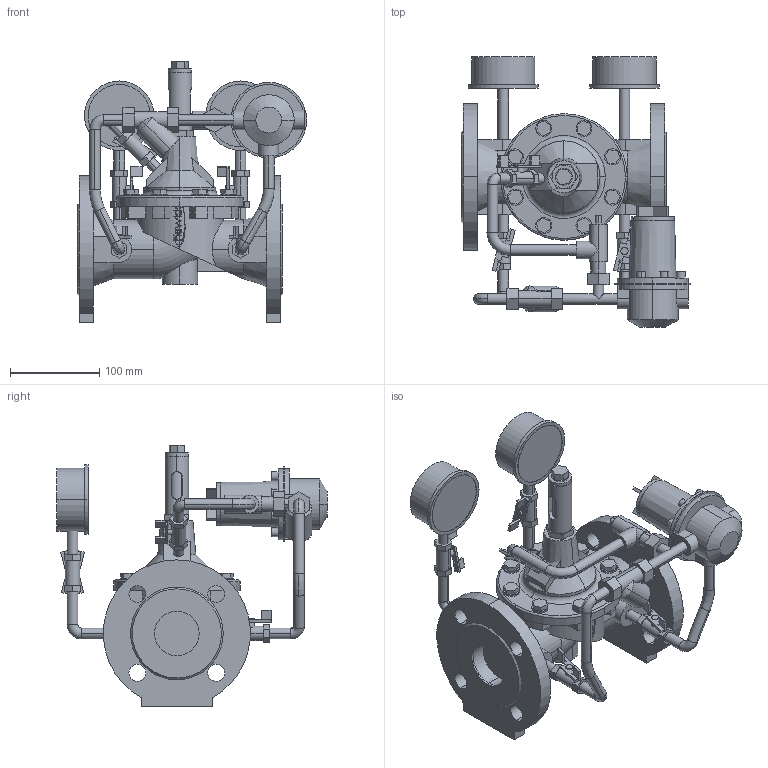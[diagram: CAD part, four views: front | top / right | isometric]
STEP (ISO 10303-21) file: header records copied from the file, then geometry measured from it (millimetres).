
FILE_DESCRIPTION(('STEP AP214'),'1');
FILE_NAME('S:/EK/USER/CAT6/3DHomepage_27-04-2012/CH-Produkte/1500/1500_PN16_DN50.STP','2013-01-18T08:36:37',(' '),(' '),'Spatial InterOp 3D',' ',' ');
FILE_SCHEMA(('automotive_design'));
Length unit declared in the file: millimetre
Products named in the file (177): 3D-Objekt
Bounding box: 257.2 x 303 x 293.8 mm (x, y, z)
Volume: 2934153.6 mm3; surface area: 564863.5 mm2
Topology: 177 solids, 177 shells, 1243 faces, 2667 edges, 1780 vertices
Faces by surface type: plane 857, cylinder 341, torus 26, cone 19
Entity records: 48979 total; most frequent: CARTESIAN_POINT 7122, DIRECTION 6278, ORIENTED_EDGE 5334, EDGE_CURVE 2667, AXIS2_PLACEMENT_3D 2220, LINE 1838, VECTOR 1838, VERTEX_POINT 1780
